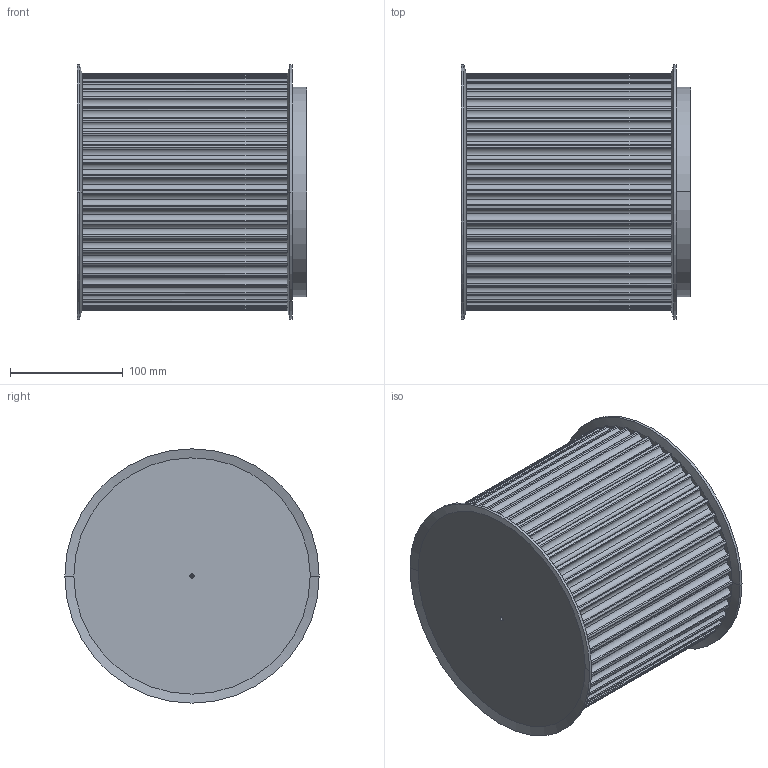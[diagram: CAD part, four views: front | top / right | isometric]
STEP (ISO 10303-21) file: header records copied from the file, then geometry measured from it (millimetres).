
FILE_DESCRIPTION(('STEP AP203'),'1');
FILE_NAME('48_-_14_m_170.stp','2019-12-16T18:16:11',('TraceParts'),('TraceParts S.A.'),'Spatial InterOp 3D',' ',' ');
FILE_SCHEMA(('CONFIG_CONTROL_DESIGN'));
Length unit declared in the file: millimetre
Products named in the file (1): 1
Bounding box: 204.14 x 226 x 226 mm (x, y, z)
Volume: 6663186.7 mm3; surface area: 265836.9 mm2
Topology: 1 solids, 1 shells, 367 faces, 1078 edges, 712 vertices
Faces by surface type: cylinder 250, plane 99, cone 18
Entity records: 13510 total; most frequent: CARTESIAN_POINT 3498, DIRECTION 2232, ORIENTED_EDGE 2148, EDGE_CURVE 1074, AXIS2_PLACEMENT_3D 982, VERTEX_POINT 712, CIRCLE 614, EDGE_LOOP 370
